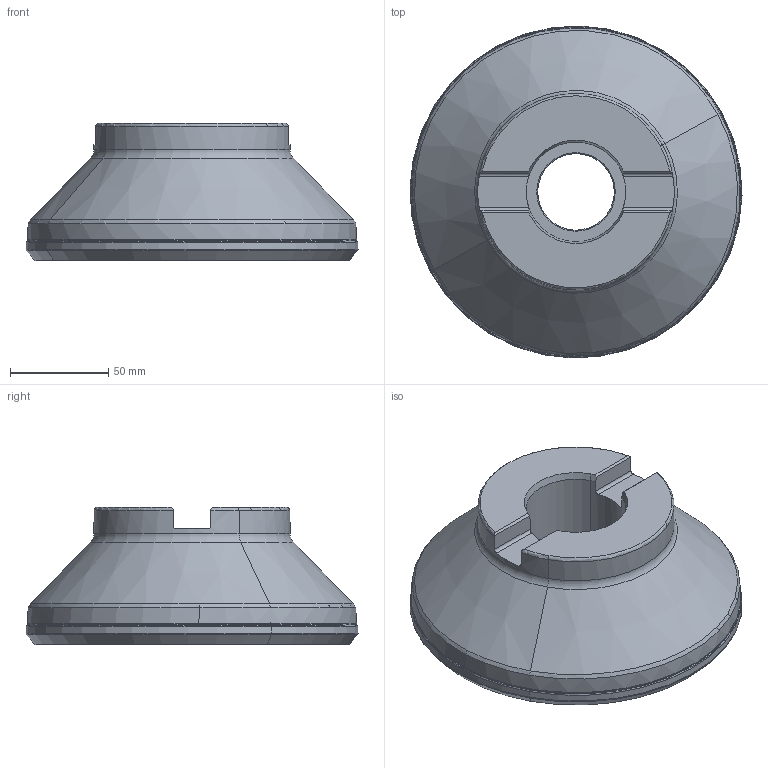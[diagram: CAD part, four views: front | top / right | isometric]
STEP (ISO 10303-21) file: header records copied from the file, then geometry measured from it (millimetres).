
FILE_DESCRIPTION(('CATIA V5 STEP','CAx-IF Rec.Pracs.--- Model Styling and Organization---1.2---2011-12-15'),'2;1');
FILE_NAME('N:\data\isr\design\special1\users\NATALY_B\Tal\NPA\3106862\IQ845 FSYD160-15-50.8-R07-L.stp','2016-06-07T07:30:34+00:00',('none'),('none'),'CATIA Version 5 Release 21 SP 5 (IN-10)','CATIA V5 STEP AP214','none');
FILE_SCHEMA(('AUTOMOTIVE_DESIGN { 1 0 10303 214 1 1 1 1 }'));
Length unit declared in the file: millimetre
Products named in the file (1): IQ845 FSYD160-15-50.8-R07
Bounding box: 169.13 x 169.13 x 70 mm (x, y, z)
Volume: 806029.4 mm3; surface area: 94075.3 mm2
Topology: 2 solids, 2 shells, 106 faces, 254 edges, 153 vertices
Faces by surface type: revolution 52, plane 16, torus 14, cylinder 12, cone 12
Entity records: 3601 total; most frequent: CARTESIAN_POINT 1408, ORIENTED_EDGE 476, DIRECTION 290, EDGE_CURVE 238, AXIS2_PLACEMENT_3D 152, B_SPLINE_CURVE_WITH_KNOTS 142, VERTEX_POINT 136, CIRCLE 114
